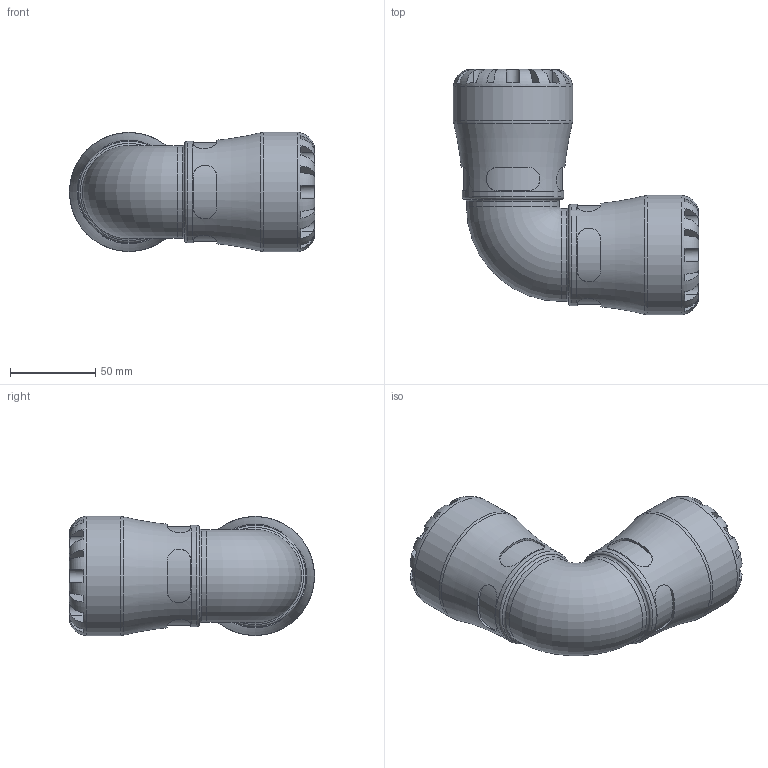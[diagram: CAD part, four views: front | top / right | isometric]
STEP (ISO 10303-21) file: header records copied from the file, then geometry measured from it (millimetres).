
FILE_DESCRIPTION(/* description */ ('PLASSON G-PLASS 90° ELBOW 40X40'),/* implementation_level */ '2;1');
FILE_NAME(/* name */ 'C:\Dropbox\KIMPROJECTS-Inventor 2019\99-16-3568-Processing\S1\150500\stp\150500040.stp',/* time_stamp */ '2023-10-17T19:35:04+03:00',/* author */ ('KIM'),/* organization */ (''),/* preprocessor_version */ 'ST-DEVELOPER v17.2',/* originating_system */ 'Autodesk Inventor 2019',/* authorisation */ '');
FILE_SCHEMA (('AUTOMOTIVE_DESIGN { 1 0 10303 214 3 1 1 }'));
Length unit declared in the file: millimetre
Products named in the file (1): 150500040
Bounding box: 144 x 144 x 70 mm (x, y, z)
Volume: 385322.4 mm3; surface area: 74255.4 mm2
Topology: 1 solids, 1 shells, 196 faces, 521 edges, 335 vertices
Faces by surface type: plane 116, cylinder 66, torus 12, cone 2
Full cylindrical faces by diameter (mm): 33.333 x2, 40 x2, 54.6 x2, 59.5 x2, 70 x2
Entity records: 7987 total; most frequent: CARTESIAN_POINT 2949, ORIENTED_EDGE 1042, DIRECTION 1008, EDGE_CURVE 521, AXIS2_PLACEMENT_3D 418, VERTEX_POINT 335, CIRCLE 221, EDGE_LOOP 206
